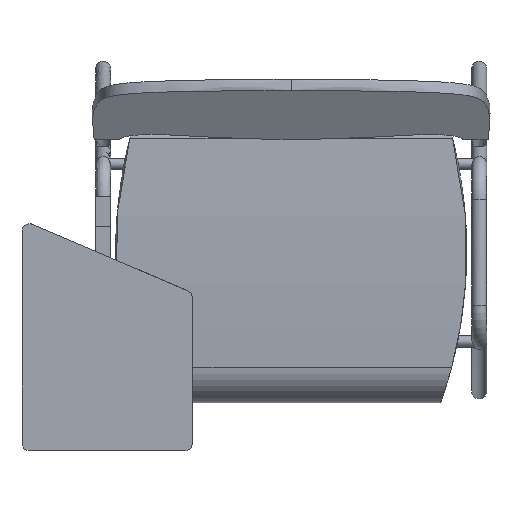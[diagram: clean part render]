
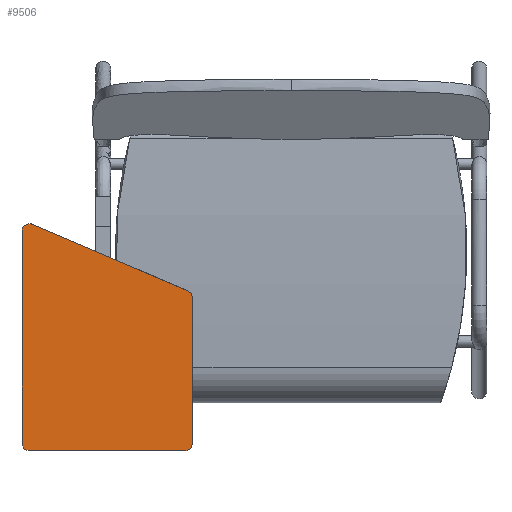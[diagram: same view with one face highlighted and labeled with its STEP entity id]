
A CAD part, top view. The second image highlights one B-rep face of the part: STEP entity #9506.
In plain terms, the highlighted planar face has unit normal (0, -0.007, 1).
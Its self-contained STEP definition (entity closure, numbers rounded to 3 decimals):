
#9358=CARTESIAN_POINT('',(-358.,211.738,602.557));
#9359=VERTEX_POINT('',#9358);
#9360=CARTESIAN_POINT('',(-344.07,220.933,602.621));
#9361=VERTEX_POINT('',#9360);
#9362=CARTESIAN_POINT('',(-348.,211.738,602.557));
#9363=DIRECTION('',(0.,0.007,-1.));
#9364=DIRECTION('',(-0.551,0.835,0.006));
#9365=AXIS2_PLACEMENT_3D('',#9362,#9363,#9364);
#9366=CIRCLE('',#9365,10.);
#9367=EDGE_CURVE('',#9359,#9361,#9366,.T.);
#9392=CARTESIAN_POINT('',(-358.,-70.069,600.615));
#9393=VERTEX_POINT('',#9392);
#9400=CARTESIAN_POINT('',(-358.,-70.069,600.615));
#9401=DIRECTION('',(0.,1.,0.007));
#9402=VECTOR('',#9401,281.814);
#9403=LINE('',#9400,#9402);
#9404=EDGE_CURVE('',#9393,#9359,#9403,.T.);
#9414=CARTESIAN_POINT('',(-137.759,132.771,602.013));
#9415=VERTEX_POINT('',#9414);
#9416=CARTESIAN_POINT('',(-131.689,123.576,601.95));
#9417=VERTEX_POINT('',#9416);
#9418=CARTESIAN_POINT('',(-141.689,123.576,601.95));
#9419=DIRECTION('',(0.,0.007,-1.));
#9420=DIRECTION('',(0.835,0.551,0.004));
#9421=AXIS2_PLACEMENT_3D('',#9418,#9419,#9420);
#9422=CIRCLE('',#9421,10.);
#9423=EDGE_CURVE('',#9415,#9417,#9422,.T.);
#9447=CARTESIAN_POINT('',(-131.689,-70.069,600.615));
#9448=VERTEX_POINT('',#9447);
#9449=CARTESIAN_POINT('',(-131.689,123.576,601.95));
#9450=DIRECTION('',(0.,-1.,-0.007));
#9451=VECTOR('',#9450,193.65);
#9452=LINE('',#9449,#9451);
#9453=EDGE_CURVE('',#9417,#9448,#9452,.T.);
#9465=CARTESIAN_POINT('',(-59.873,12.379,601.183));
#9466=DIRECTION('',(0.,-0.007,1.));
#9467=DIRECTION('',(1.0,0.0,0.0));
#9468=AXIS2_PLACEMENT_3D('',#9465,#9466,#9467);
#9469=PLANE('',#9468);
#9470=ORIENTED_EDGE('',*,*,#9367,.F.);
#9471=ORIENTED_EDGE('',*,*,#9404,.F.);
#9472=CARTESIAN_POINT('',(-348.,-80.069,600.546));
#9473=VERTEX_POINT('',#9472);
#9474=CARTESIAN_POINT('',(-348.,-70.069,600.615));
#9475=DIRECTION('',(0.,0.007,-1.));
#9476=DIRECTION('',(-0.707,-0.707,-0.005));
#9477=AXIS2_PLACEMENT_3D('',#9474,#9475,#9476);
#9478=CIRCLE('',#9477,10.);
#9479=EDGE_CURVE('',#9473,#9393,#9478,.T.);
#9480=ORIENTED_EDGE('',*,*,#9479,.F.);
#9481=CARTESIAN_POINT('',(-141.689,-80.069,600.546));
#9482=VERTEX_POINT('',#9481);
#9483=CARTESIAN_POINT('',(-141.689,-80.069,600.546));
#9484=DIRECTION('',(-1.0,0.0,0.0));
#9485=VECTOR('',#9484,206.311);
#9486=LINE('',#9483,#9485);
#9487=EDGE_CURVE('',#9482,#9473,#9486,.T.);
#9488=ORIENTED_EDGE('',*,*,#9487,.F.);
#9489=CARTESIAN_POINT('',(-141.689,-70.069,600.615));
#9490=DIRECTION('',(0.,0.007,-1.));
#9491=DIRECTION('',(0.707,-0.707,-0.005));
#9492=AXIS2_PLACEMENT_3D('',#9489,#9490,#9491);
#9493=CIRCLE('',#9492,10.0);
#9494=EDGE_CURVE('',#9448,#9482,#9493,.T.);
#9495=ORIENTED_EDGE('',*,*,#9494,.F.);
#9496=ORIENTED_EDGE('',*,*,#9453,.F.);
#9497=ORIENTED_EDGE('',*,*,#9423,.F.);
#9498=CARTESIAN_POINT('',(-344.07,220.933,602.621));
#9499=DIRECTION('',(0.92,-0.393,-0.003));
#9500=VECTOR('',#9499,224.36);
#9501=LINE('',#9498,#9500);
#9502=EDGE_CURVE('',#9361,#9415,#9501,.T.);
#9503=ORIENTED_EDGE('',*,*,#9502,.F.);
#9504=EDGE_LOOP('',(#9470,#9471,#9480,#9488,#9495,#9496,#9497,#9503));
#9505=FACE_OUTER_BOUND('',#9504,.T.);
#9506=ADVANCED_FACE('',(#9505),#9469,.T.);
